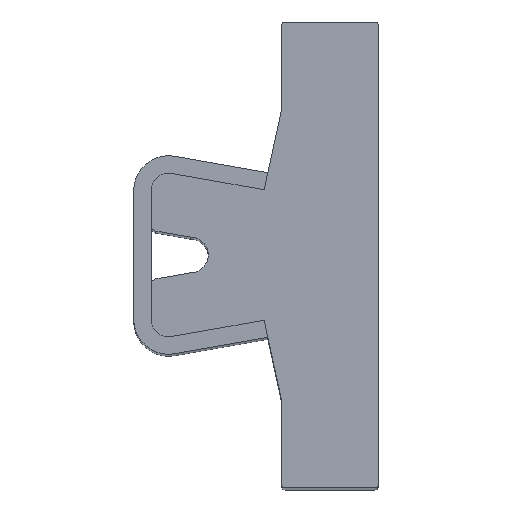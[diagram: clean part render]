
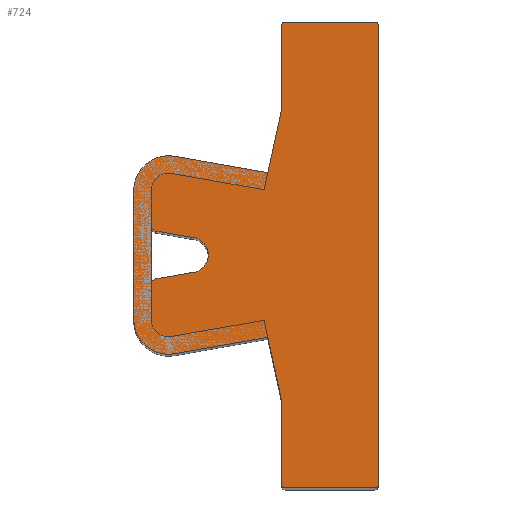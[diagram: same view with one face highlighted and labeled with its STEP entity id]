
A CAD part, top view. The second image highlights one B-rep face of the part: STEP entity #724.
In plain terms, the highlighted planar face has unit normal (0, 0, 1).
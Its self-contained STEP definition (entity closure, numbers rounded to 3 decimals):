
#35=FACE_BOUND('',#135,.T.);
#37=CIRCLE('',#766,3.);
#39=CIRCLE('',#770,3.);
#47=CIRCLE('',#784,0.3);
#48=CIRCLE('',#787,0.3);
#49=CIRCLE('',#790,0.5);
#50=CIRCLE('',#793,1.531);
#51=CIRCLE('',#799,0.3);
#52=CIRCLE('',#800,0.3);
#53=CIRCLE('',#801,0.5);
#95=FACE_OUTER_BOUND('',#134,.T.);
#134=EDGE_LOOP('',(#573,#574,#575,#576,#577,#578,#579,#580,#581,#582,#583,
#584,#585,#586,#587,#588));
#135=EDGE_LOOP('',(#589,#590,#591,#592,#593,#594));
#155=LINE('',#1041,#231);
#160=LINE('',#1054,#236);
#164=LINE('',#1066,#240);
#167=LINE('',#1074,#243);
#178=LINE('',#1109,#254);
#181=LINE('',#1115,#257);
#185=LINE('',#1124,#261);
#187=LINE('',#1130,#263);
#190=LINE('',#1138,#266);
#193=LINE('',#1146,#269);
#195=LINE('',#1150,#271);
#197=LINE('',#1154,#273);
#199=LINE('',#1159,#275);
#231=VECTOR('',#833,10.);
#236=VECTOR('',#846,10.);
#240=VECTOR('',#858,10.);
#243=VECTOR('',#863,10.);
#254=VECTOR('',#892,7.061);
#257=VECTOR('',#897,39.4);
#261=VECTOR('',#907,7.7);
#263=VECTOR('',#915,7.2);
#266=VECTOR('',#924,3.001);
#269=VECTOR('',#933,3.001);
#271=VECTOR('',#937,7.061);
#273=VECTOR('',#941,7.2);
#275=VECTOR('',#945,7.7);
#307=VERTEX_POINT('',#1038);
#308=VERTEX_POINT('',#1040);
#310=VERTEX_POINT('',#1046);
#312=VERTEX_POINT('',#1052);
#314=VERTEX_POINT('',#1058);
#316=VERTEX_POINT('',#1064);
#319=VERTEX_POINT('',#1071);
#320=VERTEX_POINT('',#1073);
#335=VERTEX_POINT('',#1108);
#336=VERTEX_POINT('',#1112);
#337=VERTEX_POINT('',#1114);
#338=VERTEX_POINT('',#1118);
#339=VERTEX_POINT('',#1122);
#340=VERTEX_POINT('',#1126);
#341=VERTEX_POINT('',#1132);
#342=VERTEX_POINT('',#1136);
#343=VERTEX_POINT('',#1140);
#344=VERTEX_POINT('',#1144);
#345=VERTEX_POINT('',#1148);
#346=VERTEX_POINT('',#1152);
#347=VERTEX_POINT('',#1156);
#348=VERTEX_POINT('',#1158);
#375=EDGE_CURVE('',#307,#308,#155,.T.);
#379=EDGE_CURVE('',#310,#307,#37,.T.);
#382=EDGE_CURVE('',#312,#310,#160,.T.);
#385=EDGE_CURVE('',#314,#312,#39,.T.);
#388=EDGE_CURVE('',#316,#314,#164,.T.);
#391=EDGE_CURVE('',#319,#320,#167,.T.);
#409=EDGE_CURVE('',#335,#308,#178,.T.);
#412=EDGE_CURVE('',#337,#336,#181,.T.);
#415=EDGE_CURVE('',#336,#338,#47,.T.);
#417=EDGE_CURVE('',#338,#339,#185,.T.);
#419=EDGE_CURVE('',#339,#340,#48,.T.);
#420=EDGE_CURVE('',#340,#335,#187,.T.);
#422=EDGE_CURVE('',#319,#341,#49,.T.);
#424=EDGE_CURVE('',#341,#342,#190,.T.);
#426=EDGE_CURVE('',#342,#343,#50,.T.);
#428=EDGE_CURVE('',#343,#344,#193,.T.);
#430=EDGE_CURVE('',#316,#345,#195,.T.);
#432=EDGE_CURVE('',#345,#346,#197,.T.);
#434=EDGE_CURVE('',#348,#347,#199,.T.);
#436=EDGE_CURVE('',#346,#348,#51,.T.);
#437=EDGE_CURVE('',#347,#337,#52,.T.);
#438=EDGE_CURVE('',#344,#320,#53,.T.);
#573=ORIENTED_EDGE('',*,*,#430,.T.);
#574=ORIENTED_EDGE('',*,*,#432,.T.);
#575=ORIENTED_EDGE('',*,*,#436,.T.);
#576=ORIENTED_EDGE('',*,*,#434,.T.);
#577=ORIENTED_EDGE('',*,*,#437,.T.);
#578=ORIENTED_EDGE('',*,*,#412,.T.);
#579=ORIENTED_EDGE('',*,*,#415,.T.);
#580=ORIENTED_EDGE('',*,*,#417,.T.);
#581=ORIENTED_EDGE('',*,*,#419,.T.);
#582=ORIENTED_EDGE('',*,*,#420,.T.);
#583=ORIENTED_EDGE('',*,*,#409,.T.);
#584=ORIENTED_EDGE('',*,*,#375,.F.);
#585=ORIENTED_EDGE('',*,*,#379,.F.);
#586=ORIENTED_EDGE('',*,*,#382,.F.);
#587=ORIENTED_EDGE('',*,*,#385,.F.);
#588=ORIENTED_EDGE('',*,*,#388,.F.);
#589=ORIENTED_EDGE('',*,*,#391,.F.);
#590=ORIENTED_EDGE('',*,*,#422,.T.);
#591=ORIENTED_EDGE('',*,*,#424,.T.);
#592=ORIENTED_EDGE('',*,*,#426,.T.);
#593=ORIENTED_EDGE('',*,*,#428,.T.);
#594=ORIENTED_EDGE('',*,*,#438,.T.);
#693=PLANE('',#798);
#724=ADVANCED_FACE('',(#95,#35),#693,.F.);
#766=AXIS2_PLACEMENT_3D('',#1048,#840,#841);
#770=AXIS2_PLACEMENT_3D('',#1060,#852,#853);
#784=AXIS2_PLACEMENT_3D('',#1120,#902,#903);
#787=AXIS2_PLACEMENT_3D('',#1128,#911,#912);
#790=AXIS2_PLACEMENT_3D('',#1134,#919,#920);
#793=AXIS2_PLACEMENT_3D('',#1142,#928,#929);
#798=AXIS2_PLACEMENT_3D('',#1161,#947,#948);
#799=AXIS2_PLACEMENT_3D('',#1162,#949,#950);
#800=AXIS2_PLACEMENT_3D('',#1163,#951,#952);
#801=AXIS2_PLACEMENT_3D('',#1164,#953,#954);
#833=DIRECTION('',(0.985,-0.174,0.));
#840=DIRECTION('center_axis',(0.,0.,-1.));
#841=DIRECTION('ref_axis',(-1.,0.,0.));
#846=DIRECTION('',(0.,1.,0.));
#852=DIRECTION('center_axis',(0.,0.,-1.));
#853=DIRECTION('ref_axis',(0.174,-0.985,0.));
#858=DIRECTION('',(-0.985,-0.174,0.));
#863=DIRECTION('',(0.,-1.,0.));
#892=DIRECTION('',(-0.212,-0.977,0.));
#897=DIRECTION('',(0.,1.,0.));
#902=DIRECTION('center_axis',(0.,0.,1.));
#903=DIRECTION('ref_axis',(-1.,0.,0.));
#907=DIRECTION('',(-1.,0.,0.));
#911=DIRECTION('center_axis',(0.,0.,1.));
#912=DIRECTION('ref_axis',(-1.,0.,0.));
#915=DIRECTION('',(0.,-1.,0.));
#919=DIRECTION('center_axis',(0.,0.,1.));
#920=DIRECTION('ref_axis',(-1.,0.,0.));
#924=DIRECTION('',(0.985,-0.174,0.));
#928=DIRECTION('center_axis',(0.,0.,-1.));
#929=DIRECTION('ref_axis',(-1.,0.,0.));
#933=DIRECTION('',(-0.985,-0.174,0.));
#937=DIRECTION('',(0.212,-0.977,0.));
#941=DIRECTION('',(0.,-1.,0.));
#945=DIRECTION('',(1.,0.,0.));
#947=DIRECTION('center_axis',(0.,0.,-1.));
#948=DIRECTION('ref_axis',(-1.,0.,0.));
#949=DIRECTION('center_axis',(0.,0.,1.));
#950=DIRECTION('ref_axis',(-1.,0.,0.));
#951=DIRECTION('center_axis',(0.,0.,1.));
#952=DIRECTION('ref_axis',(-1.,0.,0.));
#953=DIRECTION('center_axis',(0.,0.,1.));
#954=DIRECTION('ref_axis',(-1.,0.,0.));
#1038=CARTESIAN_POINT('',(-17.479,-11.523,250.));
#1040=CARTESIAN_POINT('',(-9.481,-12.933,250.));
#1041=CARTESIAN_POINT('',(-17.479,-11.523,250.));
#1046=CARTESIAN_POINT('',(-21.,-14.477,250.));
#1048=CARTESIAN_POINT('Origin',(-18.,-14.477,250.));
#1052=CARTESIAN_POINT('',(-21.,-25.523,250.));
#1054=CARTESIAN_POINT('',(-21.,-25.523,250.));
#1058=CARTESIAN_POINT('',(-17.479,-28.477,250.));
#1060=CARTESIAN_POINT('Origin',(-18.,-25.523,250.));
#1064=CARTESIAN_POINT('',(-9.481,-27.067,250.));
#1066=CARTESIAN_POINT('',(-9.481,-27.067,250.));
#1071=CARTESIAN_POINT('',(-19.5,-17.455,250.));
#1073=CARTESIAN_POINT('',(-19.5,-22.545,250.));
#1074=CARTESIAN_POINT('',(-19.5,-14.477,250.));
#1108=CARTESIAN_POINT('',(-8.3,-7.5,250.));
#1109=CARTESIAN_POINT('',(-8.3,-7.5,250.));
#1112=CARTESIAN_POINT('',(0.,-0.3,250.));
#1114=CARTESIAN_POINT('',(0.,-39.7,250.));
#1115=CARTESIAN_POINT('',(0.,-39.7,250.));
#1118=CARTESIAN_POINT('',(-0.3,0.,250.));
#1120=CARTESIAN_POINT('Origin',(-0.3,-0.3,250.));
#1122=CARTESIAN_POINT('',(-8.,0.,250.));
#1124=CARTESIAN_POINT('',(-0.3,0.,250.));
#1126=CARTESIAN_POINT('',(-8.3,-0.3,250.));
#1128=CARTESIAN_POINT('Origin',(-8.,-0.3,250.));
#1130=CARTESIAN_POINT('',(-8.3,-0.3,250.));
#1132=CARTESIAN_POINT('',(-19.087,-17.948,250.));
#1134=CARTESIAN_POINT('Origin',(-19.,-17.455,250.));
#1136=CARTESIAN_POINT('',(-16.131,-18.469,250.));
#1138=CARTESIAN_POINT('',(-19.087,-17.948,250.));
#1140=CARTESIAN_POINT('',(-16.131,-21.531,250.));
#1142=CARTESIAN_POINT('Origin',(-16.131,-20.,250.));
#1144=CARTESIAN_POINT('',(-19.087,-22.052,250.));
#1146=CARTESIAN_POINT('',(-16.131,-21.531,250.));
#1148=CARTESIAN_POINT('',(-8.3,-32.5,250.));
#1150=CARTESIAN_POINT('',(-9.8,-25.6,250.));
#1152=CARTESIAN_POINT('',(-8.3,-39.7,250.));
#1154=CARTESIAN_POINT('',(-8.3,-32.5,250.));
#1156=CARTESIAN_POINT('',(-0.3,-40.,250.));
#1158=CARTESIAN_POINT('',(-8.,-40.,250.));
#1159=CARTESIAN_POINT('',(-8.,-40.,250.));
#1161=CARTESIAN_POINT('Origin',(-18.,-25.523,250.));
#1162=CARTESIAN_POINT('Origin',(-8.,-39.7,250.));
#1163=CARTESIAN_POINT('Origin',(-0.3,-39.7,250.));
#1164=CARTESIAN_POINT('Origin',(-19.,-22.545,250.));
